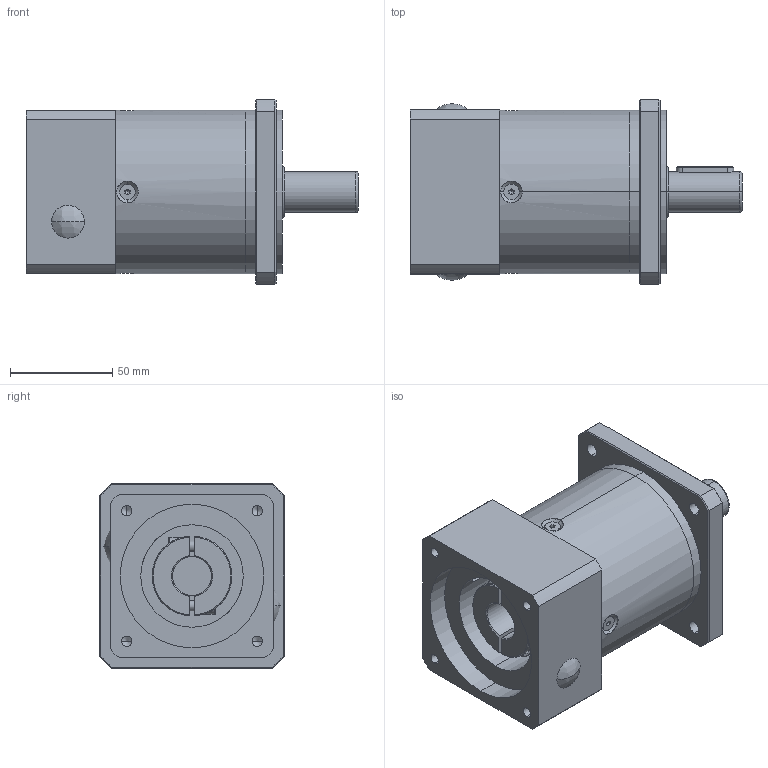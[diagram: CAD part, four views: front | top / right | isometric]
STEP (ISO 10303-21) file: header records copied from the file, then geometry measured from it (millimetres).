
FILE_DESCRIPTION (( 'STEP AP214' ), '1' );
FILE_NAME ('PLF-080-L2-S2-P2 719-70-90-M6.STEP', '2023-08-16T08:01:34', ( '微软用户' ), ( '微软中国' ), 'SwSTEP 2.0', 'SolidWorks 2018', '' );
FILE_SCHEMA (( 'AUTOMOTIVE_DESIGN' ));
Length unit declared in the file: millimetre
Products named in the file (8): hexagon socket countersunk head screws gb_GB_FASTENER_SCREWS_HSCHS M4X12-N; PLF-080薊粣ん-俋倛19; hexagon socket head cap screws gb_GB_FASTENER_SCREWS_HSHCS M5X16-N; PLF-080黑裔; PLF-080二级齿圈-外形; PLF-080怀堤傷裔-俋倛; PLF-080输入端盖-外形70-M6-90; PLF-080-L2-S2-P2 719-70-90-M6
Assembly tree (12 placements, depth 2):
  PLF-080-L2-S2-P2 719-70-90-M6
    PLF-080怀堤傷裔-俋倛
    PLF-080二级齿圈-外形
    PLF-080输入端盖-外形70-M6-90
    PLF-080薊粣ん-俋倛19
    hexagon socket countersunk head screws gb_GB_FASTENER_SCREWS_HSCHS M4X12-N  x4
    PLF-080黑裔  x2
    hexagon socket head cap screws gb_GB_FASTENER_SCREWS_HSHCS M5X16-N  x2
Bounding box: 162 x 90 x 90 mm (x, y, z)
Volume: 462038.6 mm3; surface area: 102773 mm2
Topology: 13 solids, 13 shells, 379 faces, 898 edges, 543 vertices
Faces by surface type: plane 148, cylinder 130, cone 71, bspline 30
Entity records: 11772 total; most frequent: CARTESIAN_POINT 2647, DIRECTION 1289, ORIENTED_EDGE 1204, EDGE_CURVE 602, AXIS2_PLACEMENT_3D 509, VERTEX_POINT 379, EDGE_LOOP 305, UNCERTAINTY_MEASURE_WITH_UNIT 279
